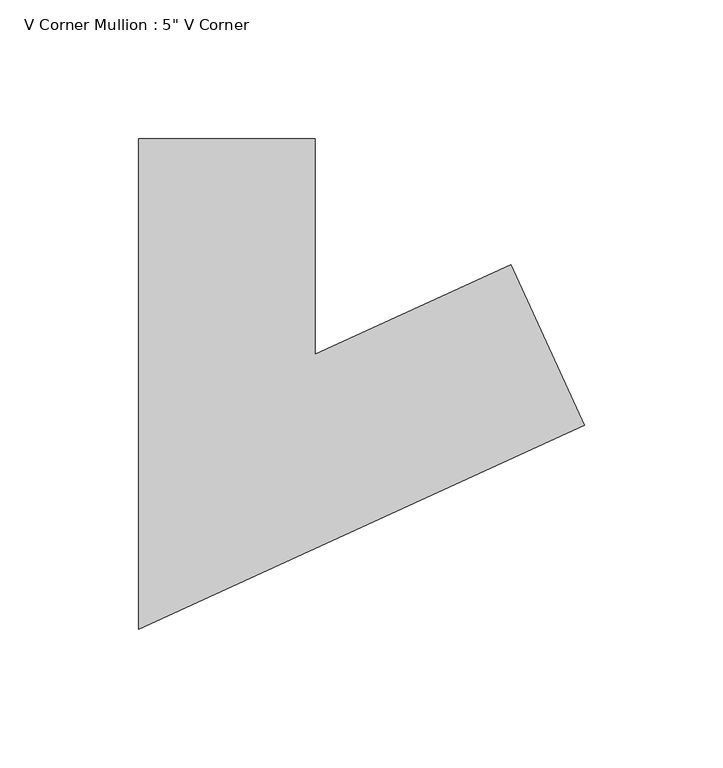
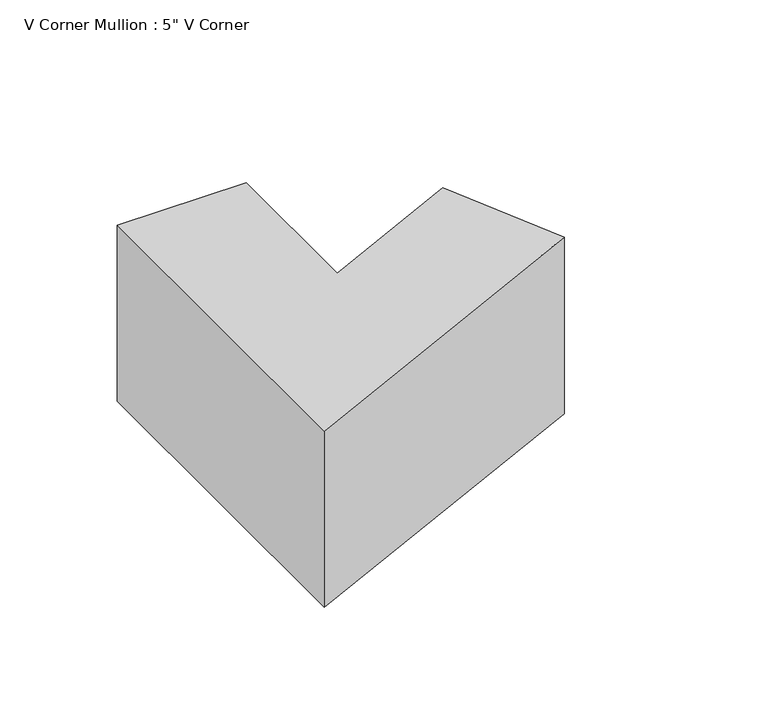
"""IFC4 building model written with IfcOpenShell, lengths in millimetres: member geometry."""

from ifc_helpers import new_model, si_unit, frame, origin, place, context, project, spatial, polyline, outline, extrude, source, transform, mapped, element, save


def member_15d39469(model_context):
    return source(origin(), model_context, "Body", "SweptSolid", [
        extrude(outline(polyline([(87.9205542, -39.5195451), (-72.5228811, -112.9476953), (-72.5228811, 63.5), (-9.0228811, 63.5), (-9.0228811, -14.0523047), (61.49523, 18.2208415), (87.9205542, -39.5195451)])), frame((0.0, 0.0, -91.5693673), z_axis=(0.0, 0.0, 1.0), x_axis=(1.0, 0.0, 0.0)), (0.0, 0.0, 1.0), 91.5693673),
    ])


if __name__ == "__main__":
    model = new_model("IFC4")
    model_context = context("Model", 3, world=origin())
    ifc_project = project(units=[si_unit("LENGTHUNIT", "METRE", prefix="MILLI")], contexts=[model_context])
    site = spatial("IfcSite", under=ifc_project)
    building = spatial("IfcBuilding", under=site)
    placement = place(None, origin())
    member_shape = member_15d39469(model_context)
    element("IfcMember", 1, ObjectType="V Corner Mullion : 5\" V Corner", at=placement, inside=building, context=model_context, shape_type="MappedRepresentation", body=[
        mapped(member_shape, transform((0.0, 0.0, 0.0), x_axis=(1.0, 0.0, 0.0), y_axis=(0.0, 1.0, 0.0), z_axis=(0.0, 0.0, 1.0))),
    ])
    save(model, "model.ifc")
